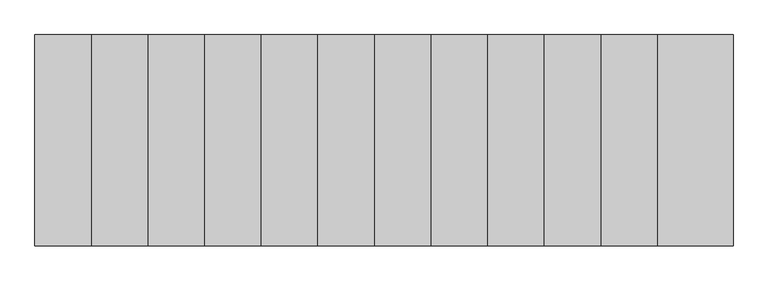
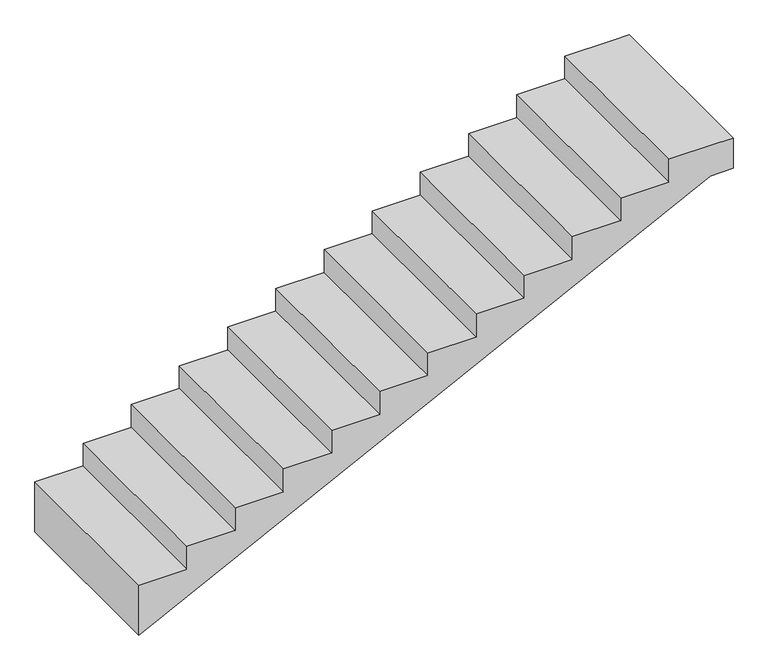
"""IFC4 building model written with IfcOpenShell, lengths in millimetres: beam geometry, SF_марш монолитный с отделкой_3.4 : UP_300х150."""

from ifc_helpers import new_model, si_unit, origin, place, context, project, spatial, faceted_brep, source, transform, mapped, element, save


def beam_a365f526(model_context):
    return source(origin(), model_context, "Body", "Brep", [
        faceted_brep([(3857.7708764, -560.0, 1600.0), (300.0, -560.0, -178.8854382), (300.0, 560.0, -178.8854382), (3857.7708764, 560.0, 1600.0), (4000.0, 560.0, 1600.0), (300.0, 560.0, 0.0), (300.0, 560.0, 150.0), (600.0, 560.0, 150.0), (600.0, 560.0, 300.0), (900.0, 560.0, 300.0), (900.0, 560.0, 450.0), (1200.0, 560.0, 450.0), (1200.0, 560.0, 600.0), (1500.0, 560.0, 600.0), (1500.0, 560.0, 750.0), (1800.0, 560.0, 750.0), (1800.0, 560.0, 900.0), (2100.0, 560.0, 900.0), (2100.0, 560.0, 1050.0), (2400.0, 560.0, 1050.0), (2400.0, 560.0, 1200.0), (2700.0, 560.0, 1200.0), (2700.0, 560.0, 1350.0), (3000.0, 560.0, 1350.0), (3000.0, 560.0, 1500.0), (3300.0, 560.0, 1500.0), (3300.0, 560.0, 1650.0), (3600.0, 560.0, 1650.0), (3600.0, 560.0, 1800.0), (3900.0, 560.0, 1800.0), (4000.0, 560.0, 1800.0), (4000.0, -560.0, 1800.0), (3900.0, -560.0, 1800.0), (3600.0, -560.0, 1800.0), (3600.0, -560.0, 1650.0), (3300.0, -560.0, 1650.0), (3300.0, -560.0, 1500.0), (3000.0, -560.0, 1500.0), (3000.0, -560.0, 1350.0), (2700.0, -560.0, 1350.0), (2700.0, -560.0, 1200.0), (2400.0, -560.0, 1200.0), (2400.0, -560.0, 1050.0), (2100.0, -560.0, 1050.0), (2100.0, -560.0, 900.0), (1800.0, -560.0, 900.0), (1800.0, -560.0, 750.0), (1500.0, -560.0, 750.0), (1500.0, -560.0, 600.0), (1200.0, -560.0, 600.0), (1200.0, -560.0, 450.0), (900.0, -560.0, 450.0), (900.0, -560.0, 300.0), (600.0, -560.0, 300.0), (600.0, -560.0, 150.0), (300.0, -560.0, 150.0), (300.0, -560.0, 0.0), (4000.0, -560.0, 1600.0)], [[[0, 1, 2, 3]], [[4, 3, 2, 5, 6, 7, 8, 9, 10, 11, 12, 13, 14, 15, 16, 17, 18, 19, 20, 21, 22, 23, 24, 25, 26, 27, 28, 29, 30]], [[31, 32, 33, 34, 35, 36, 37, 38, 39, 40, 41, 42, 43, 44, 45, 46, 47, 48, 49, 50, 51, 52, 53, 54, 55, 56, 1, 0, 57]], [[3, 4, 57, 0]], [[7, 6, 55, 54]], [[54, 53, 8, 7]], [[53, 52, 9, 8]], [[52, 51, 10, 9]], [[51, 50, 11, 10]], [[50, 49, 12, 11]], [[49, 48, 13, 12]], [[48, 47, 14, 13]], [[47, 46, 15, 14]], [[46, 45, 16, 15]], [[45, 44, 17, 16]], [[44, 43, 18, 17]], [[43, 42, 19, 18]], [[42, 41, 20, 19]], [[41, 40, 21, 20]], [[40, 39, 22, 21]], [[39, 38, 23, 22]], [[38, 37, 24, 23]], [[37, 36, 25, 24]], [[36, 35, 26, 25]], [[35, 34, 27, 26]], [[34, 33, 28, 27]], [[30, 29, 28, 33, 32, 31]], [[57, 4, 30, 31]], [[1, 56, 55, 6, 5, 2]]]),
    ])


if __name__ == "__main__":
    model = new_model("IFC4")
    model_context = context("Model", 3, world=origin())
    ifc_project = project(units=[si_unit("LENGTHUNIT", "METRE", prefix="MILLI")], contexts=[model_context])
    site = spatial("IfcSite", under=ifc_project)
    building = spatial("IfcBuilding", under=site)
    placement = place(None, origin())
    beam_shape = beam_a365f526(model_context)
    element("IfcBeam", 1, ObjectType="SF_марш монолитный с отделкой_3.4 : UP_300х150", at=placement, inside=building, context=model_context, shape_type="MappedRepresentation", body=[
        mapped(beam_shape, transform((0.0, 0.0, 0.0), x_axis=(1.0, 0.0, 0.0), y_axis=(0.0, 1.0, 0.0), z_axis=(0.0, 0.0, 1.0))),
    ])
    save(model, "model.ifc")
